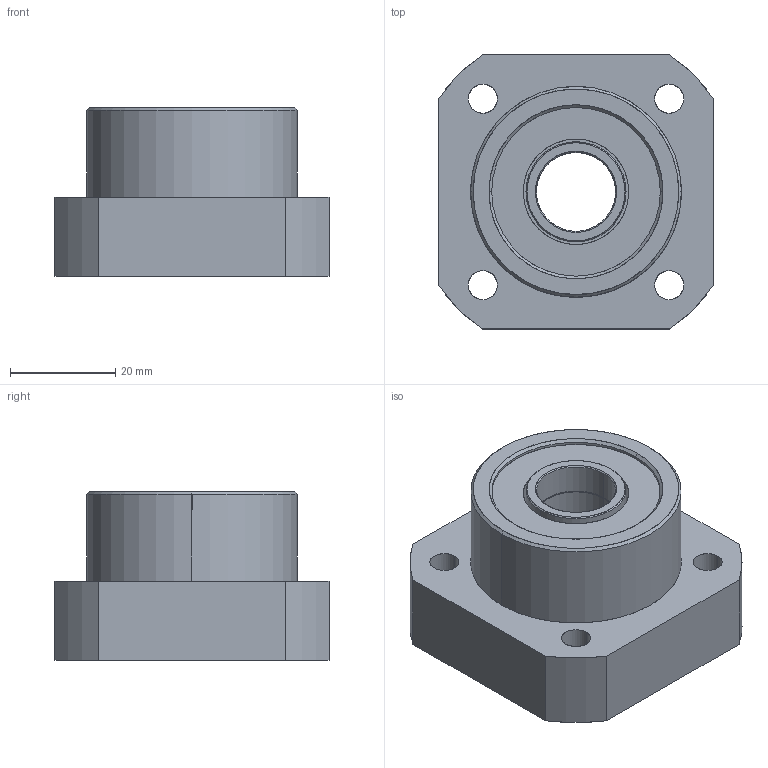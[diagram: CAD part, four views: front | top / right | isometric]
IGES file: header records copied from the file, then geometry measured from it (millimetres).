
Start section: SolidWorks IGES file using analytic representation for surfaces
Global section: file name: E:\同创达图纸\产品示意图\3D选型图\支撑座\FK系列\FK15.IGS; native system: SolidWorks 2012; preprocessor: SolidWorks 2012; author: gao; date: 130702.204935; units: millimetre
Bounding box: 52 x 52 x 32 mm (x, y, z)
Surface area: 14380.1 mm2 (no closed solid volume)
Topology: 0 solids, 0 shells, 81 faces, 1648 edges, 1648 vertices
Faces by surface type: revolution 62, bspline 19
